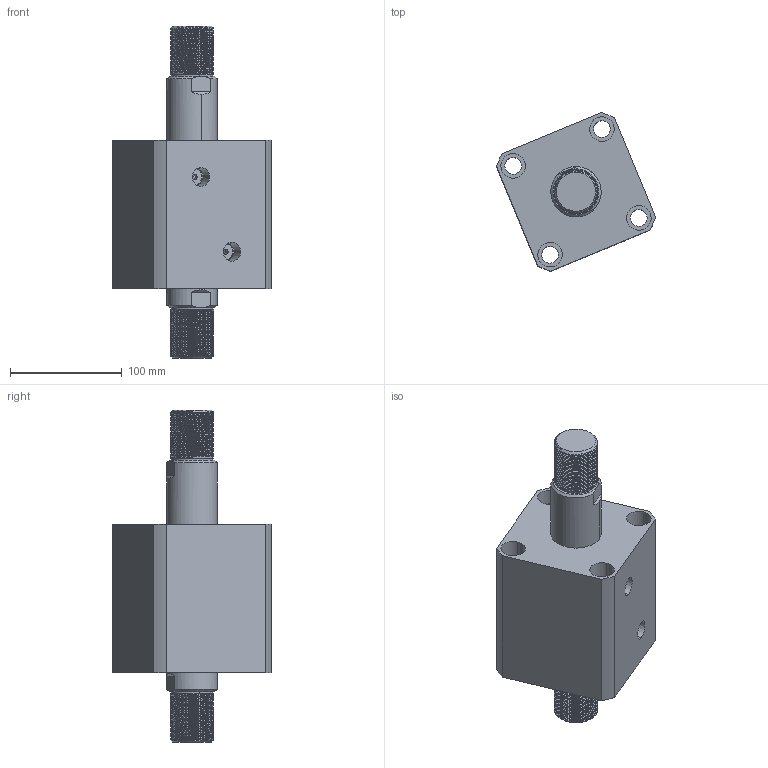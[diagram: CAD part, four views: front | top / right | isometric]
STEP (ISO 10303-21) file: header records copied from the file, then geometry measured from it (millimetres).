
FILE_DESCRIPTION (( 'STEP AP214' ), '1' );
FILE_NAME ('chtb-sw80x40w_asm.STEP', '2018-05-28T01:43:01', ( 'Windows' ), ( 'Microsoft' ), 'SwSTEP 2.0', 'SolidWorks 2015', '' );
FILE_SCHEMA (( 'AUTOMOTIVE_DESIGN' ));
Length unit declared in the file: millimetre
Products named in the file (4): CHTB-SW80X40WHSG; CHTB-SW80X40NBT; CHTB-SD80QG; chtb-sw80x40w_asm
Assembly tree (3 placements, depth 2):
  chtb-sw80x40w_asm
    CHTB-SD80QG
    CHTB-SW80X40NBT
    CHTB-SW80X40WHSG
Bounding box: 142.06 x 142.06 x 297 mm (x, y, z)
Volume: 1648717.1 mm3; surface area: 228328.3 mm2
Topology: 3 solids, 3 shells, 330 faces, 908 edges, 607 vertices
Faces by surface type: cylinder 221, plane 48, cone 25, bspline 18, torus 18
Entity records: 25864 total; most frequent: CARTESIAN_POINT 18238, ORIENTED_EDGE 1808, DIRECTION 1338, EDGE_CURVE 904, VERTEX_POINT 607, AXIS2_PLACEMENT_3D 532, EDGE_LOOP 373, ADVANCED_FACE 330
